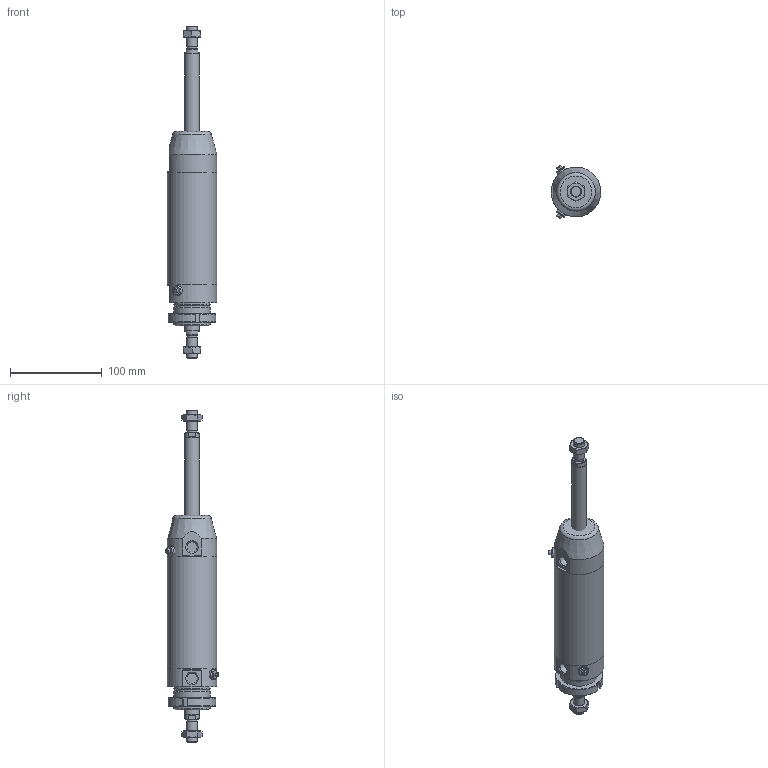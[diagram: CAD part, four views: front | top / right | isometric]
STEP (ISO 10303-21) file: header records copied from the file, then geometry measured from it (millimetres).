
FILE_DESCRIPTION(/* description */ (''),/* implementation_level */ '2;1');
FILE_NAME(/* name */ 'I:\Area Tecnica\Documenti\A-Manieri\_Inventor\12X\12X#T_###_####_#_#\12XDT_050_0080_#_#.stp',/* time_stamp */ '2015-05-13T09:08:55+02:00',/* author */ ('maniean1'),/* organization */ ('Pneumax S.p.A.'),/* preprocessor_version */ 'ST-DEVELOPER v15.2',/* originating_system */ 'Autodesk Inventor 2014',/* authorisation */ '');
FILE_SCHEMA (('AUTOMOTIVE_DESIGN { 1 0 10303 214 3 1 1 }'));
Length unit declared in the file: millimetre
Products named in the file (7): C1250_619-0080; 12X50_606; SP12X50_0080; 12X_50_11; 12X50_614; G12X_050_05; 12XDT_050_0080_#_#
Bounding box: 54 x 57.75 x 362 mm (x, y, z)
Volume: 342775.9 mm3; surface area: 98898.8 mm2
Topology: 7 solids, 7 shells, 125 faces, 280 edges, 180 vertices
Faces by surface type: plane 66, cylinder 30, cone 26, torus 3
Full cylindrical faces by diameter (mm): 5 x2, 10.2 x2, 11 x2, 11.4 x2, 12 x4, 14 x2, 15.6 x2, 16 x2, 38.2 x1, 40 x3, 50 x2, 54 x3
Entity records: 3058 total; most frequent: CARTESIAN_POINT 614, DIRECTION 513, ORIENTED_EDGE 402, AXIS2_PLACEMENT_3D 219, EDGE_CURVE 201, EDGE_LOOP 178, VERTEX_POINT 153, ADVANCED_FACE 114
